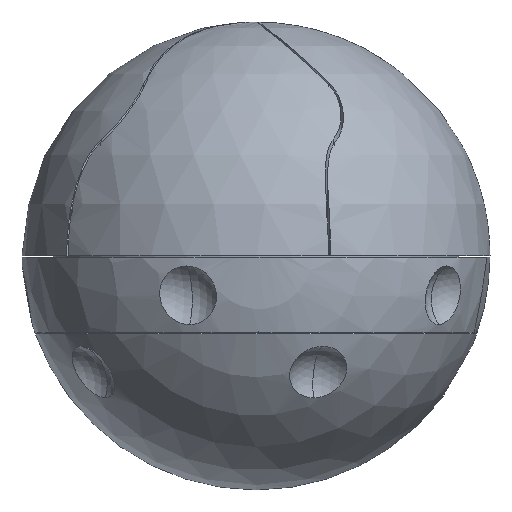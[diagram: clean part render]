
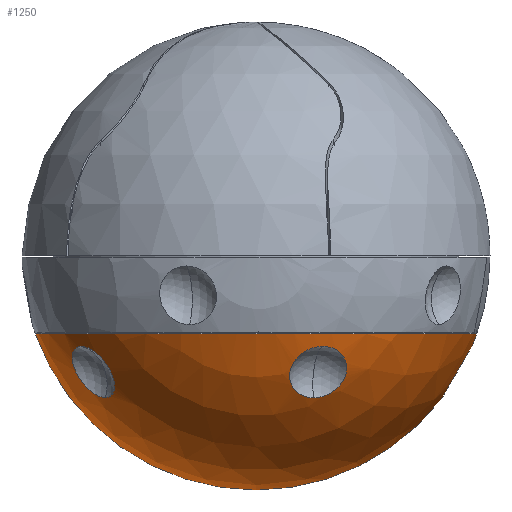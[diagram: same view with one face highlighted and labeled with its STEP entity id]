
A CAD part, left-side view. The second image highlights one B-rep face of the part: STEP entity #1250.
In plain terms, the highlighted spherical face has radius 30 mm.
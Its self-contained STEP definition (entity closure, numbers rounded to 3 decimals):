
#135 = CARTESIAN_POINT ( 'NONE',  ( 0., -25.771, -14.879 ) ) ;
#136 = DIRECTION ( 'NONE',  ( 0., -0.866, -0.5 ) ) ;
#137 = DIRECTION ( 'NONE',  ( 0., 0.5, -0.866 ) ) ;
#138 = CARTESIAN_POINT ( 'NONE',  ( 0., 0., 0. ) ) ;
#139 = DIRECTION ( 'NONE',  ( -1., 0., 0. ) ) ;
#140 = DIRECTION ( 'NONE',  ( 0., 0., 1. ) ) ;
#141 = CARTESIAN_POINT ( 'NONE',  ( 0., 0., -10. ) ) ;
#142 = DIRECTION ( 'NONE',  ( 0., 0., 1. ) ) ;
#143 = DIRECTION ( 'NONE',  ( 0., -1., 0. ) ) ;
#144 = CARTESIAN_POINT ( 'NONE',  ( -15.148, 20.849, -14.879 ) ) ;
#145 = DIRECTION ( 'NONE',  ( -0.509, 0.701, -0.5 ) ) ;
#146 = DIRECTION ( 'NONE',  ( 0.294, -0.405, -0.866 ) ) ;
#186 = CARTESIAN_POINT ( 'NONE',  ( -24.51, -7.964, -14.879 ) ) ;
#187 = DIRECTION ( 'NONE',  ( -0.824, -0.268, -0.5 ) ) ;
#188 = DIRECTION ( 'NONE',  ( 0.476, 0.155, -0.866 ) ) ;
#229 = CARTESIAN_POINT ( 'NONE',  ( 0., 0., 0. ) ) ;
#230 = DIRECTION ( 'NONE',  ( -1., 0., 0. ) ) ;
#231 = DIRECTION ( 'NONE',  ( 0., 0., 1. ) ) ;
#244 = CARTESIAN_POINT ( 'NONE',  ( 0., 0., 0. ) ) ;
#245 = DIRECTION ( 'NONE',  ( 1., 0., 0. ) ) ;
#246 = DIRECTION ( 'NONE',  ( 0., 1., 0. ) ) ;
#288 = CARTESIAN_POINT ( 'NONE',  ( -14.029, 19.309, -18.175 ) ) ;
#323 = CARTESIAN_POINT ( 'NONE',  ( 0., 0., -30. ) ) ;
#345 = CARTESIAN_POINT ( 'NONE',  ( 0., 28.284, -10. ) ) ;
#361 = CARTESIAN_POINT ( 'NONE',  ( 0., -28.284, -10. ) ) ;
#367 = CARTESIAN_POINT ( 'NONE',  ( -26.319, -8.552, -11.583 ) ) ;
#406 = CARTESIAN_POINT ( 'NONE',  ( 0., -27.674, -11.583 ) ) ;
#425 = CARTESIAN_POINT ( 'NONE',  ( -22.7, -7.376, -18.175 ) ) ;
#444 = CARTESIAN_POINT ( 'NONE',  ( -16.266, 22.389, -11.583 ) ) ;
#471 = CARTESIAN_POINT ( 'NONE',  ( 0., -23.868, -18.175 ) ) ;
#755 = AXIS2_PLACEMENT_3D ( 'NONE', #135, #136, #137 ) ;
#756 = AXIS2_PLACEMENT_3D ( 'NONE', #138, #139, #140 ) ;
#757 = AXIS2_PLACEMENT_3D ( 'NONE', #141, #142, #143 ) ;
#758 = AXIS2_PLACEMENT_3D ( 'NONE', #144, #145, #146 ) ;
#768 = AXIS2_PLACEMENT_3D ( 'NONE', #186, #187, #188 ) ;
#773 = AXIS2_PLACEMENT_3D ( 'NONE', #229, #230, #231 ) ;
#777 = AXIS2_PLACEMENT_3D ( 'NONE', #244, #245, #246 ) ;
#1038 = AXIS2_PLACEMENT_3D ( 'NONE', #3081, #3079, #3077 ) ;
#1191 = AXIS2_PLACEMENT_3D ( 'NONE', #5599, #5600, #5601 ) ;
#1195 = AXIS2_PLACEMENT_3D ( 'NONE', #5646, #5647, #5648 ) ;
#1250 = ADVANCED_FACE ( 'NONE', ( #3778, #3784, #3780 ), #3776, .T. ) ;
#1522 = EDGE_CURVE ( 'NONE', #3964, #4259, #1731, .T. ) ;
#1731 = CIRCLE ( 'NONE', #1191, 3.806 ) ;
#1753 = CIRCLE ( 'NONE', #1195, 3.806 ) ;
#2087 = ORIENTED_EDGE ( 'NONE', *, *, #2218, .F. ) ;
#2117 = EDGE_CURVE ( 'NONE', #4226, #4061, #1753, .T. ) ;
#2180 = EDGE_CURVE ( 'NONE', #4181, #4284, #5746, .T. ) ;
#2181 = EDGE_CURVE ( 'NONE', #4181, #4037, #5761, .T. ) ;
#2182 = EDGE_CURVE ( 'NONE', #4021, #4037, #5762, .T. ) ;
#2183 = EDGE_CURVE ( 'NONE', #4259, #3964, #5763, .T. ) ;
#2198 = EDGE_CURVE ( 'NONE', #4061, #4226, #5783, .T. ) ;
#2214 = EDGE_CURVE ( 'NONE', #3999, #4284, #5799, .T. ) ;
#2218 = EDGE_CURVE ( 'NONE', #3999, #4021, #5807, .T. ) ;
#2571 = EDGE_LOOP ( 'NONE', ( #3399, #3371 ) ) ;
#2631 = EDGE_LOOP ( 'NONE', ( #3407, #3370 ) ) ;
#2649 = EDGE_LOOP ( 'NONE', ( #2087, #3411, #3342, #3394, #3417 ) ) ;
#3077 = DIRECTION ( 'NONE',  ( 0., -1., 0. ) ) ;
#3079 = DIRECTION ( 'NONE',  ( 1., 0., 0. ) ) ;
#3081 = CARTESIAN_POINT ( 'NONE',  ( 0., 0., 0. ) ) ;
#3342 = ORIENTED_EDGE ( 'NONE', *, *, #2180, .F. ) ;
#3370 = ORIENTED_EDGE ( 'NONE', *, *, #2183, .F. ) ;
#3371 = ORIENTED_EDGE ( 'NONE', *, *, #2198, .F. ) ;
#3394 = ORIENTED_EDGE ( 'NONE', *, *, #2181, .T. ) ;
#3399 = ORIENTED_EDGE ( 'NONE', *, *, #2117, .F. ) ;
#3407 = ORIENTED_EDGE ( 'NONE', *, *, #1522, .F. ) ;
#3411 = ORIENTED_EDGE ( 'NONE', *, *, #2214, .T. ) ;
#3417 = ORIENTED_EDGE ( 'NONE', *, *, #2182, .F. ) ;
#3776 = SPHERICAL_SURFACE ( 'NONE', #1038, 30. ) ;
#3778 = FACE_OUTER_BOUND ( 'NONE', #2649, .T. ) ;
#3780 = FACE_BOUND ( 'NONE', #2571, .T. ) ;
#3784 = FACE_BOUND ( 'NONE', #2631, .T. ) ;
#3964 = VERTEX_POINT ( 'NONE', #288 ) ;
#3999 = VERTEX_POINT ( 'NONE', #323 ) ;
#4021 = VERTEX_POINT ( 'NONE', #345 ) ;
#4037 = VERTEX_POINT ( 'NONE', #361 ) ;
#4061 = VERTEX_POINT ( 'NONE', #367 ) ;
#4181 = VERTEX_POINT ( 'NONE', #406 ) ;
#4226 = VERTEX_POINT ( 'NONE', #425 ) ;
#4259 = VERTEX_POINT ( 'NONE', #444 ) ;
#4284 = VERTEX_POINT ( 'NONE', #471 ) ;
#5599 = CARTESIAN_POINT ( 'NONE',  ( -15.148, 20.849, -14.879 ) ) ;
#5600 = DIRECTION ( 'NONE',  ( -0.509, 0.701, -0.5 ) ) ;
#5601 = DIRECTION ( 'NONE',  ( 0.294, -0.405, -0.866 ) ) ;
#5646 = CARTESIAN_POINT ( 'NONE',  ( -24.51, -7.964, -14.879 ) ) ;
#5647 = DIRECTION ( 'NONE',  ( -0.824, -0.268, -0.5 ) ) ;
#5648 = DIRECTION ( 'NONE',  ( 0.476, 0.155, -0.866 ) ) ;
#5746 = CIRCLE ( 'NONE', #755, 3.806 ) ;
#5761 = CIRCLE ( 'NONE', #756, 30. ) ;
#5762 = CIRCLE ( 'NONE', #757, 28.284 ) ;
#5763 = CIRCLE ( 'NONE', #758, 3.806 ) ;
#5783 = CIRCLE ( 'NONE', #768, 3.806 ) ;
#5799 = CIRCLE ( 'NONE', #773, 30. ) ;
#5807 = CIRCLE ( 'NONE', #777, 30. ) ;
